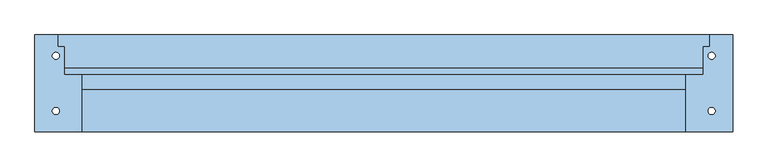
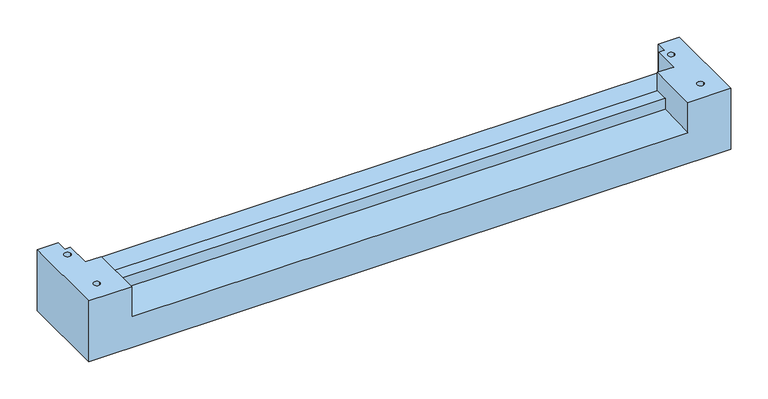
"""IFC4 building model written with IfcOpenShell, lengths in millimetres: window geometry, 30_NS_DA_51-57 : DA-57_neut30."""

from ifc_helpers import new_model, si_unit, frame, origin, place, context, project, spatial, polyline, circle_curve, source, transform, mapped, element, save
from ifc_brep_helpers import plane_surface, revolved_surface, advanced_brep


def window_9b99fbe2(model_context):
    return source(origin(), model_context, "Body", "AdvancedBrep", [
        advanced_brep(
        [(0.0, -139.0, 0.0), (0.0, 0.0, 0.0), (1000.0, 0.0, 0.0), (1000.0, -139.0, 0.0), (25.0, -109.0, 0.0), (35.0, -109.0, 0.0), (965.0, -30.0, 0.0), (975.0, -30.0, 0.0), (965.0, -109.0, 0.0), (975.0, -109.0, 0.0), (25.0, -30.0, 0.0), (35.0, -30.0, 0.0), (0.0, 0.0, 100.0), (0.0, -139.0, 100.0), (67.0, -139.0, 100.0), (67.0, -57.0, 100.0), (42.0, -57.0, 100.0), (42.0, -17.0090174, 100.0), (33.0, -17.0090174, 100.0), (33.0, 0.0, 100.0), (35.0, -109.0, 100.0), (25.0, -109.0, 100.0), (35.0, -30.0, 100.0), (25.0, -30.0, 100.0), (1000.0, 0.0, 100.0), (1000.0, -139.0, 100.0), (67.0, -78.0, 52.0831202), (67.0, -139.0, 50.2493606), (933.0, -139.0, 50.2493606), (933.0, -78.0, 52.0831202), (67.0, -78.0, 70.0), (933.0, -78.0, 70.0), (42.0, -47.0, 48.0), (42.0, -57.0, 48.0), (958.0, -57.0, 48.0), (958.0, -47.0, 48.0), (42.0, -47.0, 53.0), (958.0, -47.0, 53.0), (958.0, -17.0090174, 53.0), (967.0, -17.0090174, 53.0), (967.0, 0.0, 53.0), (33.0, 0.0, 53.0), (33.0, -17.0090174, 53.0), (42.0, -17.0090174, 53.0), (958.0, -17.0090174, 100.0), (967.0, -17.0090174, 100.0), (967.0, 0.0, 100.0), (67.0, -57.0, 70.0), (933.0, -57.0, 70.0), (933.0, -57.0, 100.0), (958.0, -57.0, 100.0), (933.0, -139.0, 100.0), (965.0, -30.0, 100.0), (975.0, -30.0, 100.0), (965.0, -109.0, 100.0), (975.0, -109.0, 100.0)],
        [
            (0, 1),
            (1, 2),
            (2, 3),
            (3, 0),
            (4, 5, circle_curve(frame((30.0, -109.0, 0.0), z_axis=(0.0, 0.0, 1.0), x_axis=(1.0, 0.0, 0.0)), 5.0)),
            (5, 4, circle_curve(frame((30.0, -109.0, 0.0), z_axis=(0.0, 0.0, 1.0), x_axis=(1.0, 0.0, 0.0)), 5.0)),
            (6, 7, circle_curve(frame((970.0, -30.0, 0.0), z_axis=(0.0, 0.0, 1.0), x_axis=(1.0, 0.0, 0.0)), 5.0)),
            (7, 6, circle_curve(frame((970.0, -30.0, 0.0), z_axis=(0.0, 0.0, 1.0), x_axis=(1.0, 0.0, 0.0)), 5.0)),
            (8, 9, circle_curve(frame((970.0, -109.0, 0.0), z_axis=(0.0, 0.0, 1.0), x_axis=(1.0, 0.0, 0.0)), 5.0)),
            (9, 8, circle_curve(frame((970.0, -109.0, 0.0), z_axis=(0.0, 0.0, 1.0), x_axis=(1.0, 0.0, 0.0)), 5.0)),
            (10, 11, circle_curve(frame((30.0, -30.0, 0.0), z_axis=(0.0, 0.0, 1.0), x_axis=(1.0, 0.0, 0.0)), 5.0)),
            (11, 10, circle_curve(frame((30.0, -30.0, 0.0), z_axis=(0.0, 0.0, 1.0), x_axis=(1.0, 0.0, 0.0)), 5.0)),
            (12, 13),
            (13, 14),
            (14, 15),
            (15, 16),
            (16, 17),
            (17, 18),
            (18, 19),
            (19, 12),
            (20, 21, circle_curve(frame((30.0, -109.0, 100.0), z_axis=(0.0, 0.0, -1.0), x_axis=(1.0, 0.0, 0.0)), 5.0)),
            (21, 20, circle_curve(frame((30.0, -109.0, 100.0), z_axis=(0.0, 0.0, -1.0), x_axis=(1.0, 0.0, 0.0)), 5.0)),
            (22, 23, circle_curve(frame((30.0, -30.0, 100.0), z_axis=(0.0, 0.0, -1.0), x_axis=(1.0, 0.0, 0.0)), 5.0)),
            (23, 22, circle_curve(frame((30.0, -30.0, 100.0), z_axis=(0.0, 0.0, -1.0), x_axis=(1.0, 0.0, 0.0)), 5.0)),
            (2, 24),
            (24, 25),
            (25, 3),
            (26, 27),
            (27, 28),
            (28, 29),
            (29, 26),
            (30, 26),
            (29, 31),
            (31, 30),
            (32, 33),
            (33, 34),
            (34, 35),
            (35, 32),
            (36, 32),
            (35, 37),
            (37, 36),
            (37, 38),
            (38, 39),
            (39, 40),
            (40, 41),
            (41, 42),
            (42, 43),
            (43, 36),
            (41, 19),
            (18, 42),
            (17, 43),
            (38, 44),
            (44, 45),
            (45, 39),
            (45, 46),
            (46, 40),
            (16, 33),
            (15, 47),
            (47, 48),
            (48, 49),
            (49, 50),
            (50, 34),
            (14, 27),
            (30, 47),
            (13, 0),
            (25, 51),
            (51, 28),
            (12, 1),
            (46, 24),
            (51, 49),
            (48, 31),
            (50, 44),
            (4, 21),
            (20, 5),
            (6, 52),
            (52, 53, circle_curve(frame((970.0, -30.0, 100.0), z_axis=(0.0, 0.0, 1.0), x_axis=(1.0, 0.0, 0.0)), 5.0)),
            (53, 7),
            (53, 52, circle_curve(frame((970.0, -30.0, 100.0), z_axis=(0.0, 0.0, 1.0), x_axis=(1.0, 0.0, 0.0)), 5.0)),
            (8, 54),
            (54, 55, circle_curve(frame((970.0, -109.0, 100.0), z_axis=(0.0, 0.0, 1.0), x_axis=(1.0, 0.0, 0.0)), 5.0)),
            (55, 9),
            (55, 54, circle_curve(frame((970.0, -109.0, 100.0), z_axis=(0.0, 0.0, 1.0), x_axis=(1.0, 0.0, 0.0)), 5.0)),
            (10, 23),
            (22, 11),
        ],
        [
            plane_surface(frame((0.0, 0.0, 0.0), z_axis=(0.0, 0.0, -1.0), x_axis=(1.0, 0.0, 0.0))),
            plane_surface(frame((0.0, 0.0, 100.0), z_axis=(0.0, 0.0, 1.0), x_axis=(1.0, 0.0, 0.0))),
            plane_surface(frame((1000.0, 0.0, 0.0), z_axis=(1.0, 0.0, 0.0), x_axis=(0.0, 0.0, 1.0))),
            plane_surface(frame((0.0, -139.0, 50.2493606), z_axis=(0.0, -0.030048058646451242, 0.9995484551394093), x_axis=(1.0, 0.0, 0.0))),
            plane_surface(frame((0.0, -78.0, 52.0831202), z_axis=(0.0, -1.0, 0.0), x_axis=(1.0, 0.0, 0.0))),
            plane_surface(frame((0.0, -57.0, 48.0), z_axis=(0.0, 0.0, 1.0), x_axis=(1.0, 0.0, 0.0))),
            plane_surface(frame((0.0, -47.0, 48.0), z_axis=(0.0, -1.0, 0.0), x_axis=(1.0, 0.0, 0.0))),
            plane_surface(frame((0.0, -47.0, 53.0), z_axis=(0.0, 0.0, 1.0), x_axis=(1.0, 0.0, 0.0))),
            plane_surface(frame((33.0, 0.0, 153.0), z_axis=(1.0, 0.0, 0.0), x_axis=(0.0, 0.0, -1.0))),
            plane_surface(frame((33.0, -17.0090174, 153.0), z_axis=(0.0, 1.0, 0.0), x_axis=(0.0, 0.0, -1.0))),
            plane_surface(frame((958.0, -17.0090174, 153.0), z_axis=(0.0, 1.0, 0.0), x_axis=(0.0, 0.0, -1.0))),
            plane_surface(frame((967.0, -17.0090174, 153.0), z_axis=(-1.0, 0.0, 0.0), x_axis=(0.0, 0.0, -1.0))),
            plane_surface(frame((42.0, 0.0, 0.0), z_axis=(1.0, 0.0, 0.0), x_axis=(0.0, 0.0, 1.0))),
            plane_surface(frame((42.0, -57.0, 0.0), z_axis=(0.0, 1.0, 0.0), x_axis=(0.0, 0.0, 1.0))),
            plane_surface(frame((67.0, -57.0, 0.0), z_axis=(1.0, 0.0, 0.0), x_axis=(0.0, 0.0, 1.0))),
            plane_surface(frame((67.0, -139.0, 0.0), z_axis=(0.0, -1.0, 0.0), x_axis=(0.0, 0.0, 1.0))),
            plane_surface(frame((0.0, -139.0, 0.0), z_axis=(-1.0, 0.0, 0.0), x_axis=(0.0, 0.0, 1.0))),
            plane_surface(frame((0.0, 0.0, 0.0), z_axis=(0.0, 1.0, 0.0), x_axis=(0.0, 0.0, 1.0))),
            plane_surface(frame((933.0, -139.0, 0.0), z_axis=(-1.0, 0.0, 0.0), x_axis=(0.0, 0.0, 1.0))),
            plane_surface(frame((958.0, -57.0, 0.0), z_axis=(-1.0, 0.0, 0.0), x_axis=(0.0, 0.0, 1.0))),
            revolved_surface(polyline([(35.0, -109.0, 0.0), (35.0, -109.0, 100.0)]), (30.0, -109.0, 0.0), (0.0, 0.0, -1.0)),
            revolved_surface(polyline([(975.0, -30.0, 0.0), (975.0, -30.0, 100.0)]), (970.0, -30.0, 0.0), (0.0, 0.0, -1.0)),
            revolved_surface(polyline([(975.0, -109.0, 0.0), (975.0, -109.0, 100.0)]), (970.0, -109.0, 0.0), (0.0, 0.0, -1.0)),
            revolved_surface(polyline([(35.0, -30.0, 0.0), (35.0, -30.0, 100.0)]), (30.0, -30.0, 0.0), (0.0, 0.0, -1.0)),
            plane_surface(frame((1000.0, 0.0, 100.0), z_axis=(0.0, 0.0, 1.0), x_axis=(1.0, 0.0, 0.0))),
            plane_surface(frame((0.0, -78.0, 70.0), z_axis=(0.0, 0.0, 1.0), x_axis=(1.0, 0.0, 0.0))),
        ],
        [
            (0, [[1, 2, 3, 4], [5, 6], [7, 8], [9, 10], [11, 12]]),
            (1, [[13, 14, 15, 16, 17, 18, 19, 20], [21, 22], [23, 24]]),
            (2, [[-3, 25, 26, 27]]),
            (3, [[28, 29, 30, 31]]),
            (4, [[32, -31, 33, 34]]),
            (5, [[35, 36, 37, 38]]),
            (6, [[39, -38, 40, 41]]),
            (7, [[-41, 42, 43, 44, 45, 46, 47, 48]]),
            (8, [[-46, 49, -19, 50]]),
            (9, [[-47, -50, -18, 51]]),
            (10, [[-43, 52, 53, 54]]),
            (11, [[-44, -54, 55, 56]]),
            (12, [[-35, -39, -48, -51, -17, 57]]),
            (13, [[-16, 58, 59, 60, 61, 62, -36, -57]]),
            (14, [[-15, 63, -28, -32, 64, -58]]),
            (15, [[-14, 65, -4, -27, 66, 67, -29, -63]]),
            (16, [[-1, -65, -13, 68]]),
            (17, [[-68, -20, -49, -45, -56, 69, -25, -2]]),
            (18, [[70, -60, 71, -33, -30, -67]]),
            (19, [[-37, -62, 72, -52, -42, -40]]),
            (20, [[73, -21, 74, -5]]),
            (20, [[-73, -6, -74, -22]]),
            (21, [[75, 76, 77, -7]]),
            (21, [[-75, -8, -77, 78]]),
            (22, [[79, 80, 81, -9]]),
            (22, [[-79, -10, -81, 82]]),
            (23, [[83, -23, 84, -11]]),
            (23, [[-83, -12, -84, -24]]),
            (24, [[-61, -70, -66, -26, -69, -55, -53, -72], [-76, -78], [-80, -82]]),
            (25, [[-64, -34, -71, -59]]),
        ],
    ),
    ])


if __name__ == "__main__":
    model = new_model("IFC4")
    model_context = context("Model", 3, world=origin())
    ifc_project = project(units=[si_unit("LENGTHUNIT", "METRE", prefix="MILLI")], contexts=[model_context])
    site = spatial("IfcSite", under=ifc_project)
    building = spatial("IfcBuilding", under=site)
    placement = place(None, origin())
    window_shape = window_9b99fbe2(model_context)
    element("IfcWindow", 1, ObjectType="30_NS_DA_51-57 : DA-57_neut30", at=placement, inside=building, context=model_context, shape_type="MappedRepresentation", body=[
        mapped(window_shape, transform((0.0, 0.0, 0.0), x_axis=(1.0, 0.0, 0.0), y_axis=(0.0, 1.0, 0.0), z_axis=(0.0, 0.0, 1.0))),
    ])
    save(model, "model.ifc")
